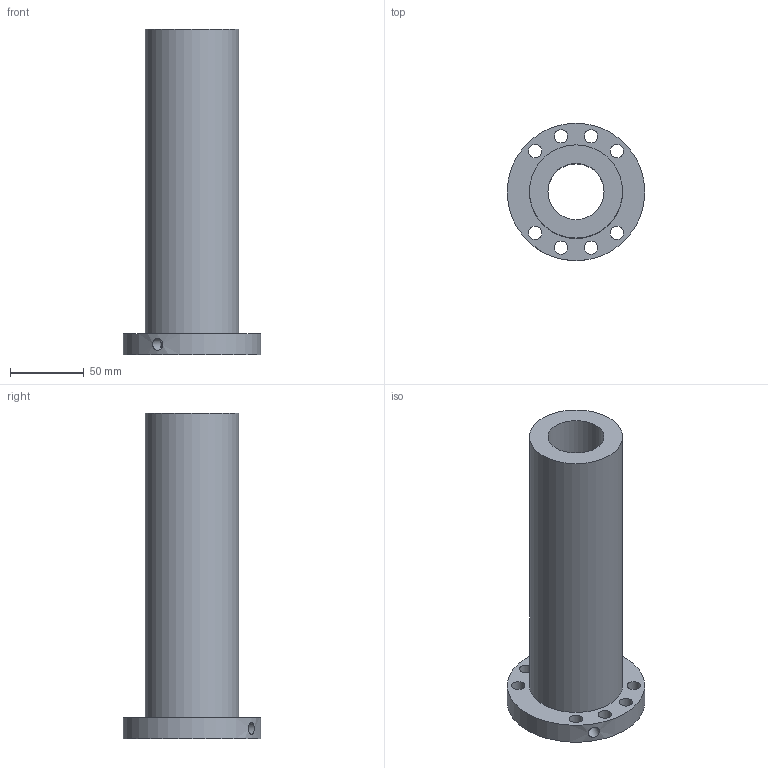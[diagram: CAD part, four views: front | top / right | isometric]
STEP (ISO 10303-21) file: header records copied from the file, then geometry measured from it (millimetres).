
FILE_DESCRIPTION(/* description */ (''),/* implementation_level */ '2;1');
FILE_NAME(/* name */ '38-16K5_635',/* time_stamp */ '2007-10-15T12:53:58+08:00',/* author */ (''),/* organization */ (''),/* preprocessor_version */ 'ST-DEVELOPER v11',/* originating_system */ 'UGS - NX 5.0',/* authorisation */ '');
FILE_SCHEMA (('CONFIG_CONTROL_DESIGN'));
Length unit declared in the file: millimetre
Products named in the file (1): 38-16K5_635
Bounding box: 93 x 93 x 220 mm (x, y, z)
Volume: 479626.2 mm3; surface area: 85116.7 mm2
Topology: 1 solids, 1 shells, 17 faces, 40 edges, 27 vertices
Faces by surface type: cylinder 13, plane 4
Full cylindrical faces by diameter (mm): 6 x1, 8 x1, 9 x8, 38 x1, 63 x1, 93 x1
Entity records: 668 total; most frequent: CARTESIAN_POINT 184, DIRECTION 84, FACE_BOUND 52, EDGE_LOOP 52, ORIENTED_EDGE 52, AXIS2_PLACEMENT_3D 42, VERTEX_POINT 26, EDGE_CURVE 26
